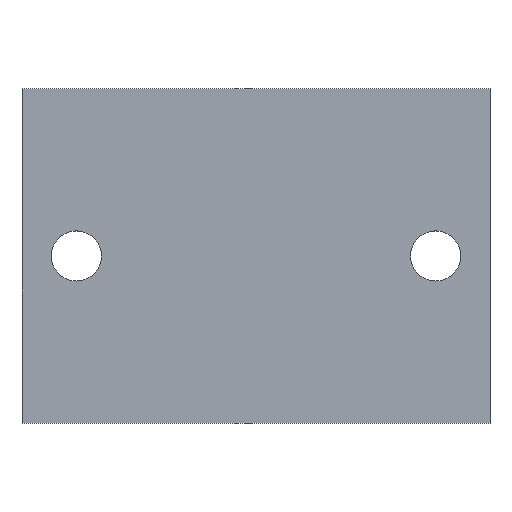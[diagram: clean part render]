
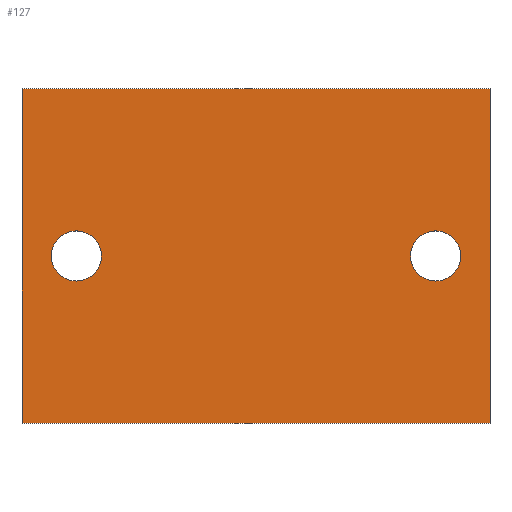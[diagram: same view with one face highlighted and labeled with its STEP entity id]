
A CAD part, top view. The second image highlights one B-rep face of the part: STEP entity #127.
In plain terms, the highlighted planar face has unit normal (0, 0, 1).
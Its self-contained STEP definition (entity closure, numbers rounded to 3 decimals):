
#7 = FACE_BOUND ( 'NONE', #77, .T. ) ;
#13 = LINE ( 'NONE', #258, #170 ) ;
#14 = PLANE ( 'NONE',  #274 ) ;
#16 = CIRCLE ( 'NONE', #57, 1.5 ) ;
#18 = VERTEX_POINT ( 'NONE', #241 ) ;
#32 = EDGE_CURVE ( 'NONE', #97, #18, #75, .T. ) ;
#36 = ORIENTED_EDGE ( 'NONE', *, *, #381, .F. ) ;
#41 = CARTESIAN_POINT ( 'NONE',  ( 12.25, 0., 2. ) ) ;
#44 = CARTESIAN_POINT ( 'NONE',  ( 10.75, 0., 2. ) ) ;
#53 = ORIENTED_EDGE ( 'NONE', *, *, #298, .T. ) ;
#55 = VERTEX_POINT ( 'NONE', #378 ) ;
#57 = AXIS2_PLACEMENT_3D ( 'NONE', #44, #172, #342 ) ;
#66 = AXIS2_PLACEMENT_3D ( 'NONE', #145, #328, #291 ) ;
#70 = VERTEX_POINT ( 'NONE', #300 ) ;
#73 = ORIENTED_EDGE ( 'NONE', *, *, #355, .F. ) ;
#75 = LINE ( 'NONE', #354, #159 ) ;
#77 = EDGE_LOOP ( 'NONE', ( #206, #36 ) ) ;
#94 = VERTEX_POINT ( 'NONE', #216 ) ;
#97 = VERTEX_POINT ( 'NONE', #331 ) ;
#98 = EDGE_LOOP ( 'NONE', ( #73, #369 ) ) ;
#100 = LINE ( 'NONE', #349, #229 ) ;
#105 = AXIS2_PLACEMENT_3D ( 'NONE', #135, #261, #109 ) ;
#109 = DIRECTION ( 'NONE',  ( 1., 0., 0. ) ) ;
#110 = VERTEX_POINT ( 'NONE', #41 ) ;
#115 = EDGE_CURVE ( 'NONE', #293, #97, #100, .T. ) ;
#119 = DIRECTION ( 'NONE',  ( 0., 0., 1. ) ) ;
#124 = AXIS2_PLACEMENT_3D ( 'NONE', #240, #119, #272 ) ;
#127 = ADVANCED_FACE ( 'NONE', ( #363, #7, #377 ), #14, .T. ) ;
#129 = CARTESIAN_POINT ( 'NONE',  ( 0., 0., 2. ) ) ;
#132 = DIRECTION ( 'NONE',  ( 1., 0., 0. ) ) ;
#135 = CARTESIAN_POINT ( 'NONE',  ( -10.75, 0., 2. ) ) ;
#139 = ORIENTED_EDGE ( 'NONE', *, *, #32, .T. ) ;
#145 = CARTESIAN_POINT ( 'NONE',  ( -10.75, 0., 2. ) ) ;
#153 = CIRCLE ( 'NONE', #124, 1.5 ) ;
#154 = CIRCLE ( 'NONE', #66, 1.5 ) ;
#159 = VECTOR ( 'NONE', #166, 1000. ) ;
#165 = DIRECTION ( 'NONE',  ( 0., 1., 0. ) ) ;
#166 = DIRECTION ( 'NONE',  ( -1., 0., 0. ) ) ;
#170 = VECTOR ( 'NONE', #374, 1000. ) ;
#171 = DIRECTION ( 'NONE',  ( 0., -1., 0. ) ) ;
#172 = DIRECTION ( 'NONE',  ( 0., 0., 1. ) ) ;
#175 = EDGE_LOOP ( 'NONE', ( #282, #53, #280, #139 ) ) ;
#176 = CARTESIAN_POINT ( 'NONE',  ( -14., -10., 2. ) ) ;
#204 = CIRCLE ( 'NONE', #105, 1.5 ) ;
#206 = ORIENTED_EDGE ( 'NONE', *, *, #218, .F. ) ;
#216 = CARTESIAN_POINT ( 'NONE',  ( -14., -10., 2. ) ) ;
#218 = EDGE_CURVE ( 'NONE', #110, #55, #16, .T. ) ;
#229 = VECTOR ( 'NONE', #165, 1000. ) ;
#230 = DIRECTION ( 'NONE',  ( 0., 0., 1. ) ) ;
#237 = LINE ( 'NONE', #176, #383 ) ;
#240 = CARTESIAN_POINT ( 'NONE',  ( 10.75, 0., 2. ) ) ;
#241 = CARTESIAN_POINT ( 'NONE',  ( -14., 10., 2. ) ) ;
#244 = EDGE_CURVE ( 'NONE', #339, #70, #204, .T. ) ;
#258 = CARTESIAN_POINT ( 'NONE',  ( 14., -10., 2. ) ) ;
#261 = DIRECTION ( 'NONE',  ( 0., 0., 1. ) ) ;
#265 = CARTESIAN_POINT ( 'NONE',  ( -12.25, 0., 2. ) ) ;
#272 = DIRECTION ( 'NONE',  ( 1., 0., 0. ) ) ;
#274 = AXIS2_PLACEMENT_3D ( 'NONE', #129, #230, #132 ) ;
#280 = ORIENTED_EDGE ( 'NONE', *, *, #115, .T. ) ;
#282 = ORIENTED_EDGE ( 'NONE', *, *, #329, .T. ) ;
#284 = CARTESIAN_POINT ( 'NONE',  ( 14., -10., 2. ) ) ;
#291 = DIRECTION ( 'NONE',  ( 1., 0., 0. ) ) ;
#293 = VERTEX_POINT ( 'NONE', #284 ) ;
#298 = EDGE_CURVE ( 'NONE', #94, #293, #13, .T. ) ;
#300 = CARTESIAN_POINT ( 'NONE',  ( -9.25, 0., 2. ) ) ;
#328 = DIRECTION ( 'NONE',  ( 0., 0., 1. ) ) ;
#329 = EDGE_CURVE ( 'NONE', #18, #94, #237, .T. ) ;
#331 = CARTESIAN_POINT ( 'NONE',  ( 14., 10., 2. ) ) ;
#339 = VERTEX_POINT ( 'NONE', #265 ) ;
#342 = DIRECTION ( 'NONE',  ( 1., 0., 0. ) ) ;
#349 = CARTESIAN_POINT ( 'NONE',  ( 14., -10., 2. ) ) ;
#354 = CARTESIAN_POINT ( 'NONE',  ( 14., 10., 2. ) ) ;
#355 = EDGE_CURVE ( 'NONE', #70, #339, #154, .T. ) ;
#363 = FACE_BOUND ( 'NONE', #98, .T. ) ;
#369 = ORIENTED_EDGE ( 'NONE', *, *, #244, .F. ) ;
#374 = DIRECTION ( 'NONE',  ( 1., 0., 0. ) ) ;
#377 = FACE_OUTER_BOUND ( 'NONE', #175, .T. ) ;
#378 = CARTESIAN_POINT ( 'NONE',  ( 9.25, 0., 2. ) ) ;
#381 = EDGE_CURVE ( 'NONE', #55, #110, #153, .T. ) ;
#383 = VECTOR ( 'NONE', #171, 1000. ) ;
